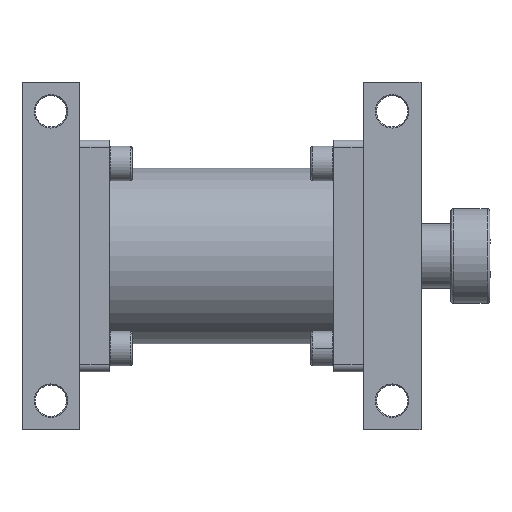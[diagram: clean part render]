
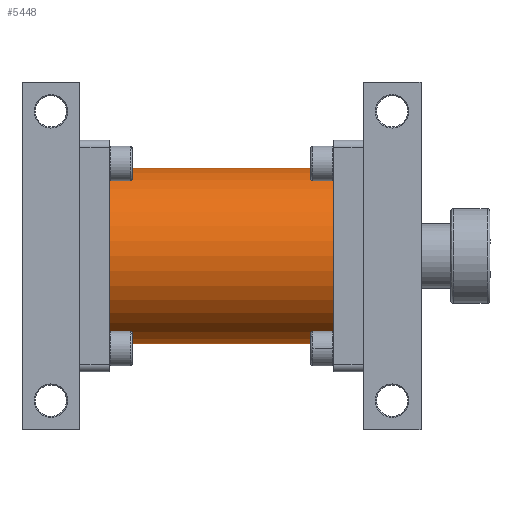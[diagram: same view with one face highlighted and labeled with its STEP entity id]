
A CAD part, front view. The second image highlights one B-rep face of the part: STEP entity #5448.
In plain terms, the highlighted cylindrical face has radius 76 mm (diameter 152 mm), a partial arc.
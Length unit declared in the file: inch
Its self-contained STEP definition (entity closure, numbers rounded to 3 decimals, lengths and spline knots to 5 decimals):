
#774 = EDGE_CURVE ( 'NONE', #5093, #5554, #6492, .T. ) ;
#1711 = CARTESIAN_POINT ( 'NONE',  ( 7.24409, 0., 2.99213 ) ) ;
#2788 = EDGE_CURVE ( 'NONE', #5554, #6396, #8988, .T. ) ;
#2877 = EDGE_CURVE ( 'NONE', #5093, #3100, #9290, .T. ) ;
#3100 = VERTEX_POINT ( 'NONE', #14911 ) ;
#4367 = ORIENTED_EDGE ( 'NONE', *, *, #2788, .T. ) ;
#4447 = AXIS2_PLACEMENT_3D ( 'NONE', #5366, #5452, #5421 ) ;
#4941 = EDGE_LOOP ( 'NONE', ( #12268, #7371, #4367, #11748 ) ) ;
#5005 = CARTESIAN_POINT ( 'NONE',  ( -0.3937, 0., 2.99213 ) ) ;
#5093 = VERTEX_POINT ( 'NONE', #10354 ) ;
#5366 = CARTESIAN_POINT ( 'NONE',  ( 7.24409, 0., 0. ) ) ;
#5421 = DIRECTION ( 'NONE',  ( 0., 0., 1. ) ) ;
#5448 = ADVANCED_FACE ( 'NONE', ( #13466 ), #13517, .T. ) ;
#5452 = DIRECTION ( 'NONE',  ( -1., 0., 0. ) ) ;
#5554 = VERTEX_POINT ( 'NONE', #1711 ) ;
#6396 = VERTEX_POINT ( 'NONE', #5005 ) ;
#6492 = CIRCLE ( 'NONE', #7158, 2.99213 ) ;
#7158 = AXIS2_PLACEMENT_3D ( 'NONE', #9474, #13914, #12855 ) ;
#7371 = ORIENTED_EDGE ( 'NONE', *, *, #774, .T. ) ;
#7968 = AXIS2_PLACEMENT_3D ( 'NONE', #8365, #8334, #8279 ) ;
#8279 = DIRECTION ( 'NONE',  ( 0., 0., 1. ) ) ;
#8334 = DIRECTION ( 'NONE',  ( 1., 0., 0. ) ) ;
#8365 = CARTESIAN_POINT ( 'NONE',  ( -0.3937, 0., 0. ) ) ;
#8988 = LINE ( 'NONE', #10443, #9191 ) ;
#9191 = VECTOR ( 'NONE', #10166, 39.37008 ) ;
#9290 = LINE ( 'NONE', #10961, #9309 ) ;
#9309 = VECTOR ( 'NONE', #11197, 39.37008 ) ;
#9474 = CARTESIAN_POINT ( 'NONE',  ( 7.24409, 0., 0. ) ) ;
#9649 = CIRCLE ( 'NONE', #7968, 2.99213 ) ;
#10166 = DIRECTION ( 'NONE',  ( -1., 0., 0. ) ) ;
#10354 = CARTESIAN_POINT ( 'NONE',  ( 7.24409, 0., -2.99213 ) ) ;
#10443 = CARTESIAN_POINT ( 'NONE',  ( 7.24409, 0., 2.99213 ) ) ;
#10961 = CARTESIAN_POINT ( 'NONE',  ( 7.24409, 0., -2.99213 ) ) ;
#11197 = DIRECTION ( 'NONE',  ( -1., 0., 0. ) ) ;
#11385 = EDGE_CURVE ( 'NONE', #6396, #3100, #9649, .T. ) ;
#11748 = ORIENTED_EDGE ( 'NONE', *, *, #11385, .T. ) ;
#12268 = ORIENTED_EDGE ( 'NONE', *, *, #2877, .F. ) ;
#12855 = DIRECTION ( 'NONE',  ( 0., 0., 1. ) ) ;
#13466 = FACE_OUTER_BOUND ( 'NONE', #4941, .T. ) ;
#13517 = CYLINDRICAL_SURFACE ( 'NONE', #4447, 2.99213 ) ;
#13914 = DIRECTION ( 'NONE',  ( -1., 0., 0. ) ) ;
#14911 = CARTESIAN_POINT ( 'NONE',  ( -0.3937, 0., -2.99213 ) ) ;
